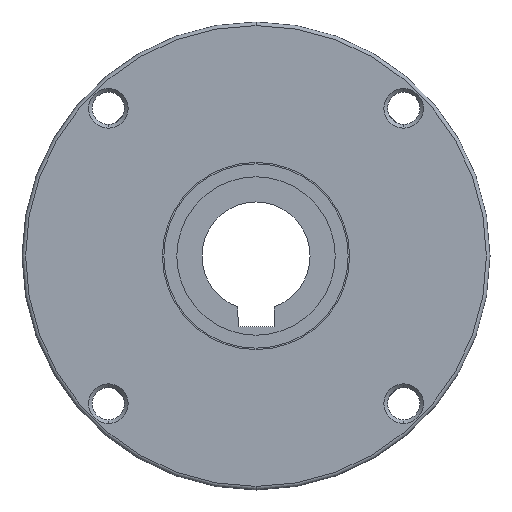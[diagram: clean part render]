
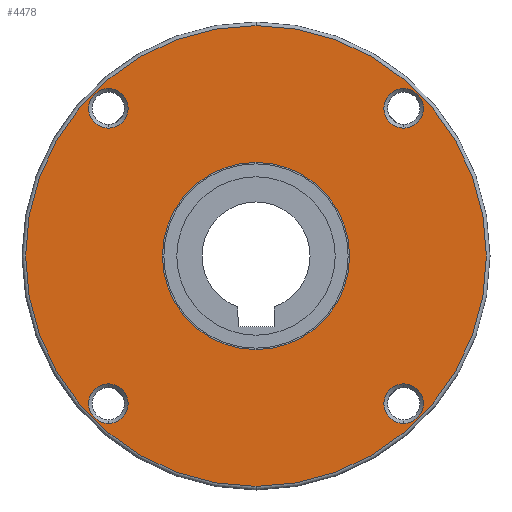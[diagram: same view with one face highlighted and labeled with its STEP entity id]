
A CAD part, front view. The second image highlights one B-rep face of the part: STEP entity #4478.
In plain terms, the highlighted planar face has unit normal (0, -1, 0).
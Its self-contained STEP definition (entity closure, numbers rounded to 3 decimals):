
#195 = EDGE_CURVE ( 'NONE', #345, #1439, #5413, .T. ) ;
#292 = AXIS2_PLACEMENT_3D ( 'NONE', #297, #4454, #341 ) ;
#297 = CARTESIAN_POINT ( 'NONE',  ( -20.506, -10.212, -20.506 ) ) ;
#318 = DIRECTION ( 'NONE',  ( 0., 0., 1. ) ) ;
#332 = AXIS2_PLACEMENT_3D ( 'NONE', #3259, #3496, #2357 ) ;
#341 = DIRECTION ( 'NONE',  ( 0., 0., 1. ) ) ;
#345 = VERTEX_POINT ( 'NONE', #851 ) ;
#405 = DIRECTION ( 'NONE',  ( 0., 1., 0. ) ) ;
#436 = DIRECTION ( 'NONE',  ( 0., 0., 1. ) ) ;
#460 = VERTEX_POINT ( 'NONE', #4789 ) ;
#461 = DIRECTION ( 'NONE',  ( 0., 1., 0. ) ) ;
#582 = CARTESIAN_POINT ( 'NONE',  ( 0., -10.212, 0. ) ) ;
#595 = ORIENTED_EDGE ( 'NONE', *, *, #1624, .T. ) ;
#662 = DIRECTION ( 'NONE',  ( 0., 0., 1. ) ) ;
#678 = ORIENTED_EDGE ( 'NONE', *, *, #4154, .T. ) ;
#697 = DIRECTION ( 'NONE',  ( 0., 0., 1. ) ) ;
#732 = DIRECTION ( 'NONE',  ( 0., 1., 0. ) ) ;
#737 = FACE_BOUND ( 'NONE', #3219, .T. ) ;
#849 = EDGE_CURVE ( 'NONE', #5148, #2931, #1322, .T. ) ;
#851 = CARTESIAN_POINT ( 'NONE',  ( 0., -10.212, -32. ) ) ;
#932 = EDGE_CURVE ( 'NONE', #3840, #2740, #4663, .T. ) ;
#938 = ORIENTED_EDGE ( 'NONE', *, *, #195, .T. ) ;
#956 = CARTESIAN_POINT ( 'NONE',  ( 20.506, -10.212, -20.506 ) ) ;
#986 = EDGE_LOOP ( 'NONE', ( #1453, #2021 ) ) ;
#1013 = DIRECTION ( 'NONE',  ( 0., 1., 0. ) ) ;
#1238 = EDGE_CURVE ( 'NONE', #460, #2886, #3150, .T. ) ;
#1258 = CIRCLE ( 'NONE', #4775, 13. ) ;
#1322 = CIRCLE ( 'NONE', #292, 2.75 ) ;
#1361 = EDGE_CURVE ( 'NONE', #2931, #5148, #4092, .T. ) ;
#1433 = EDGE_CURVE ( 'NONE', #4900, #1867, #4088, .T. ) ;
#1436 = CARTESIAN_POINT ( 'NONE',  ( 20.506, -10.212, -20.506 ) ) ;
#1439 = VERTEX_POINT ( 'NONE', #5296 ) ;
#1453 = ORIENTED_EDGE ( 'NONE', *, *, #4794, .T. ) ;
#1457 = DIRECTION ( 'NONE',  ( 0., 0., 1. ) ) ;
#1500 = ORIENTED_EDGE ( 'NONE', *, *, #1433, .T. ) ;
#1510 = CIRCLE ( 'NONE', #4106, 2.75 ) ;
#1515 = CARTESIAN_POINT ( 'NONE',  ( 20.506, -10.212, 20.506 ) ) ;
#1519 = DIRECTION ( 'NONE',  ( 0., 0., 1. ) ) ;
#1521 = CARTESIAN_POINT ( 'NONE',  ( -20.506, -10.212, 20.506 ) ) ;
#1545 = CARTESIAN_POINT ( 'NONE',  ( 20.506, -10.212, 23.256 ) ) ;
#1608 = CARTESIAN_POINT ( 'NONE',  ( 0., -10.212, 0. ) ) ;
#1624 = EDGE_CURVE ( 'NONE', #2886, #460, #3261, .T. ) ;
#1686 = DIRECTION ( 'NONE',  ( 0., 0., 1. ) ) ;
#1701 = FACE_OUTER_BOUND ( 'NONE', #2033, .T. ) ;
#1725 = ORIENTED_EDGE ( 'NONE', *, *, #1238, .T. ) ;
#1770 = AXIS2_PLACEMENT_3D ( 'NONE', #3236, #5062, #318 ) ;
#1838 = FACE_BOUND ( 'NONE', #4575, .T. ) ;
#1867 = VERTEX_POINT ( 'NONE', #5453 ) ;
#1881 = CARTESIAN_POINT ( 'NONE',  ( -20.506, -10.212, -20.506 ) ) ;
#1909 = CARTESIAN_POINT ( 'NONE',  ( -20.506, -10.212, -23.256 ) ) ;
#2014 = CARTESIAN_POINT ( 'NONE',  ( -20.506, -10.212, -17.756 ) ) ;
#2021 = ORIENTED_EDGE ( 'NONE', *, *, #932, .T. ) ;
#2033 = EDGE_LOOP ( 'NONE', ( #5088, #938 ) ) ;
#2188 = DIRECTION ( 'NONE',  ( 0., 1., 0. ) ) ;
#2211 = AXIS2_PLACEMENT_3D ( 'NONE', #1881, #732, #4793 ) ;
#2264 = EDGE_CURVE ( 'NONE', #1867, #4900, #4069, .T. ) ;
#2330 = AXIS2_PLACEMENT_3D ( 'NONE', #582, #3660, #1686 ) ;
#2357 = DIRECTION ( 'NONE',  ( 0., 0., 1. ) ) ;
#2566 = DIRECTION ( 'NONE',  ( 0., 1., 0. ) ) ;
#2592 = EDGE_CURVE ( 'NONE', #3299, #3125, #3112, .T. ) ;
#2661 = AXIS2_PLACEMENT_3D ( 'NONE', #956, #2566, #3096 ) ;
#2740 = VERTEX_POINT ( 'NONE', #3822 ) ;
#2794 = AXIS2_PLACEMENT_3D ( 'NONE', #1521, #1013, #3357 ) ;
#2866 = FACE_BOUND ( 'NONE', #986, .T. ) ;
#2886 = VERTEX_POINT ( 'NONE', #4240 ) ;
#2931 = VERTEX_POINT ( 'NONE', #1909 ) ;
#2940 = ORIENTED_EDGE ( 'NONE', *, *, #2264, .T. ) ;
#2992 = FACE_BOUND ( 'NONE', #3635, .T. ) ;
#3096 = DIRECTION ( 'NONE',  ( 0., 0., 1. ) ) ;
#3112 = CIRCLE ( 'NONE', #5232, 13. ) ;
#3125 = VERTEX_POINT ( 'NONE', #4271 ) ;
#3150 = CIRCLE ( 'NONE', #2794, 2.75 ) ;
#3219 = EDGE_LOOP ( 'NONE', ( #1725, #595 ) ) ;
#3231 = AXIS2_PLACEMENT_3D ( 'NONE', #5007, #4713, #697 ) ;
#3236 = CARTESIAN_POINT ( 'NONE',  ( 32.5, -10.212, 0. ) ) ;
#3259 = CARTESIAN_POINT ( 'NONE',  ( -20.506, -10.212, 20.506 ) ) ;
#3261 = CIRCLE ( 'NONE', #332, 2.75 ) ;
#3299 = VERTEX_POINT ( 'NONE', #4824 ) ;
#3301 = AXIS2_PLACEMENT_3D ( 'NONE', #1515, #3684, #1457 ) ;
#3317 = CIRCLE ( 'NONE', #3231, 32. ) ;
#3357 = DIRECTION ( 'NONE',  ( 0., 0., 1. ) ) ;
#3496 = DIRECTION ( 'NONE',  ( 0., 1., 0. ) ) ;
#3635 = EDGE_LOOP ( 'NONE', ( #2940, #1500 ) ) ;
#3660 = DIRECTION ( 'NONE',  ( 0., -1., 0. ) ) ;
#3668 = ORIENTED_EDGE ( 'NONE', *, *, #1361, .T. ) ;
#3684 = DIRECTION ( 'NONE',  ( 0., 1., 0. ) ) ;
#3822 = CARTESIAN_POINT ( 'NONE',  ( 20.506, -10.212, 17.756 ) ) ;
#3840 = VERTEX_POINT ( 'NONE', #1545 ) ;
#3994 = EDGE_LOOP ( 'NONE', ( #3668, #4719 ) ) ;
#4069 = CIRCLE ( 'NONE', #2661, 2.75 ) ;
#4088 = CIRCLE ( 'NONE', #4336, 2.75 ) ;
#4092 = CIRCLE ( 'NONE', #2211, 2.75 ) ;
#4106 = AXIS2_PLACEMENT_3D ( 'NONE', #4536, #461, #1519 ) ;
#4154 = EDGE_CURVE ( 'NONE', #3125, #3299, #1258, .T. ) ;
#4240 = CARTESIAN_POINT ( 'NONE',  ( -20.506, -10.212, 23.256 ) ) ;
#4271 = CARTESIAN_POINT ( 'NONE',  ( 0., -10.212, -13. ) ) ;
#4285 = CARTESIAN_POINT ( 'NONE',  ( 20.506, -10.212, -17.756 ) ) ;
#4336 = AXIS2_PLACEMENT_3D ( 'NONE', #1436, #5212, #436 ) ;
#4454 = DIRECTION ( 'NONE',  ( 0., 1., 0. ) ) ;
#4478 = ADVANCED_FACE ( 'NONE', ( #2866, #737, #5083, #2992, #1701, #1838 ), #5333, .F. ) ;
#4519 = ORIENTED_EDGE ( 'NONE', *, *, #2592, .T. ) ;
#4536 = CARTESIAN_POINT ( 'NONE',  ( 20.506, -10.212, 20.506 ) ) ;
#4575 = EDGE_LOOP ( 'NONE', ( #4519, #678 ) ) ;
#4663 = CIRCLE ( 'NONE', #3301, 2.75 ) ;
#4702 = EDGE_CURVE ( 'NONE', #1439, #345, #3317, .T. ) ;
#4713 = DIRECTION ( 'NONE',  ( 0., -1., 0. ) ) ;
#4719 = ORIENTED_EDGE ( 'NONE', *, *, #849, .T. ) ;
#4775 = AXIS2_PLACEMENT_3D ( 'NONE', #1608, #2188, #662 ) ;
#4789 = CARTESIAN_POINT ( 'NONE',  ( -20.506, -10.212, 17.756 ) ) ;
#4793 = DIRECTION ( 'NONE',  ( 0., 0., 1. ) ) ;
#4794 = EDGE_CURVE ( 'NONE', #2740, #3840, #1510, .T. ) ;
#4824 = CARTESIAN_POINT ( 'NONE',  ( 0., -10.212, 13. ) ) ;
#4900 = VERTEX_POINT ( 'NONE', #4285 ) ;
#5007 = CARTESIAN_POINT ( 'NONE',  ( 0., -10.212, 0. ) ) ;
#5062 = DIRECTION ( 'NONE',  ( 0., 1., 0. ) ) ;
#5083 = FACE_BOUND ( 'NONE', #3994, .T. ) ;
#5088 = ORIENTED_EDGE ( 'NONE', *, *, #4702, .T. ) ;
#5134 = DIRECTION ( 'NONE',  ( 0., 0., 1. ) ) ;
#5148 = VERTEX_POINT ( 'NONE', #2014 ) ;
#5212 = DIRECTION ( 'NONE',  ( 0., 1., 0. ) ) ;
#5221 = CARTESIAN_POINT ( 'NONE',  ( 0., -10.212, 0. ) ) ;
#5232 = AXIS2_PLACEMENT_3D ( 'NONE', #5221, #405, #5134 ) ;
#5296 = CARTESIAN_POINT ( 'NONE',  ( 0., -10.212, 32. ) ) ;
#5333 = PLANE ( 'NONE',  #1770 ) ;
#5413 = CIRCLE ( 'NONE', #2330, 32. ) ;
#5453 = CARTESIAN_POINT ( 'NONE',  ( 20.506, -10.212, -23.256 ) ) ;
